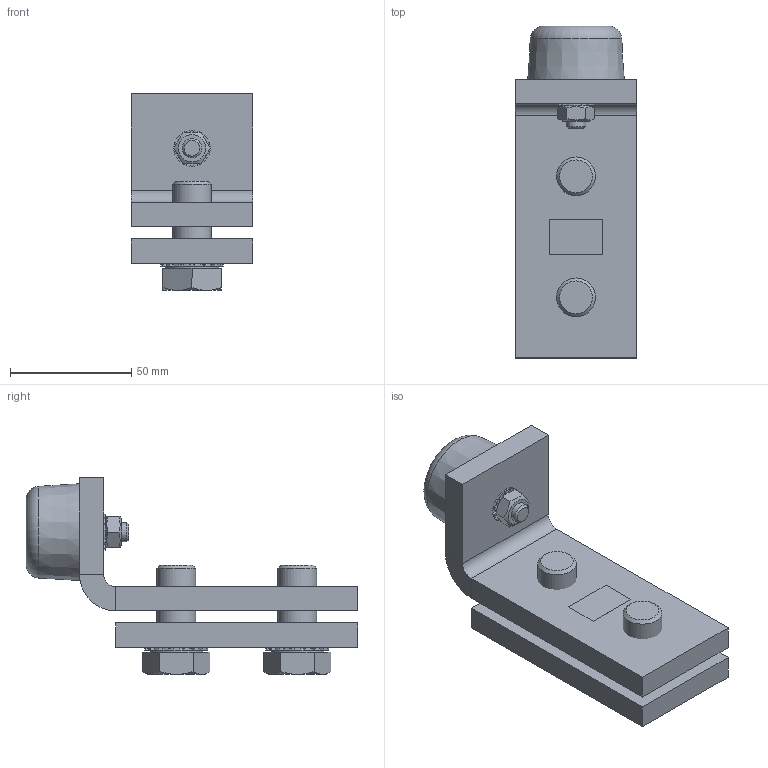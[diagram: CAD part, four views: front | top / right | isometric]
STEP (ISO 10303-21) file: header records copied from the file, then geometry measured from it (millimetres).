
FILE_DESCRIPTION(/* description */ ('Biegeteil mit Gewinde'),/* implementation_level */ '2;1');
FILE_NAME(/* name */ 'Q:\sge-ma\Produktmanagement-STB\STB\Workspace\stp\010336140.stp',/* time_stamp */ '2015-07-09T15:57:09+02:00',/* author */ ('avschreier'),/* organization */ (''),/* preprocessor_version */ 'ST-DEVELOPER v15.6',/* originating_system */ 'Autodesk Inventor 2015',/* authorisation */ '');
FILE_SCHEMA (('CONFIG_CONTROL_DESIGN'));
Length unit declared in the file: millimetre
Products named in the file (9): 337000156; 337000215; DIN_6798-A_17_en; DIN_EN_ISO_4017-M16x35_en; DIN_EN_ISO_4033-M8_en; DIN_6798-A_8,4_en; DIN_EN_ISO_4017-M8x30_en; 577; 010336140
Bounding box: 50 x 137.03 x 81.2 mm (x, y, z)
Volume: 169153.8 mm3; surface area: 49219.7 mm2
Topology: 10 solids, 10 shells, 424 faces, 1150 edges, 751 vertices
Faces by surface type: cylinder 220, plane 167, cone 35, torus 2
Full cylindrical faces by diameter (mm): 6.647 x1, 7.323 x1, 8 x1, 8.4 x1, 8.5 x1, 11.4 x1, 13.835 x2, 14.917 x2, 16 x2, 16.5 x2, 17 x2, 22 x2
Entity records: 9245 total; most frequent: DIRECTION 1650, CARTESIAN_POINT 1639, ORIENTED_EDGE 1498, EDGE_CURVE 749, AXIS2_PLACEMENT_3D 626, VERTEX_POINT 507, LINE 398, VECTOR 398
